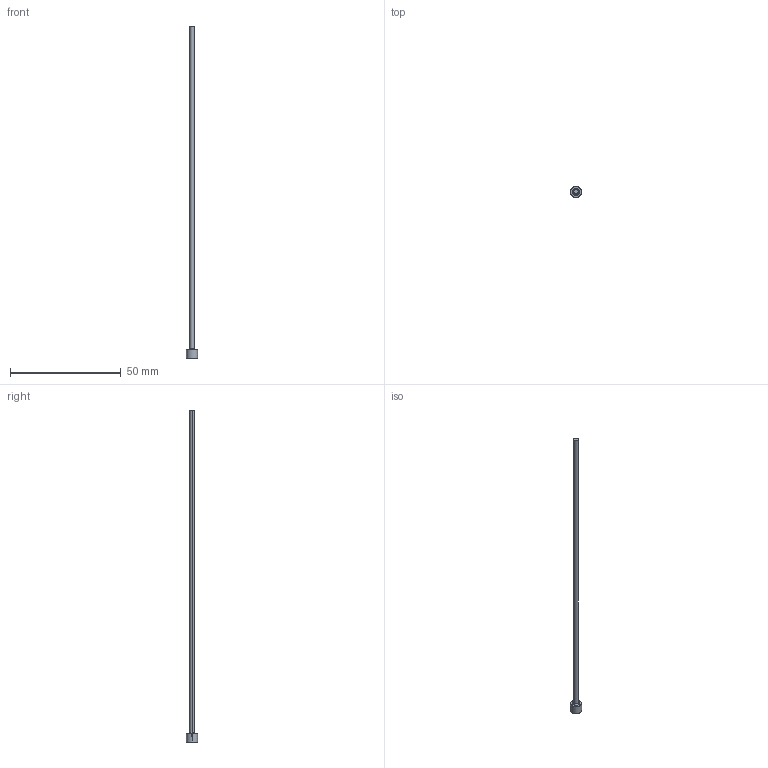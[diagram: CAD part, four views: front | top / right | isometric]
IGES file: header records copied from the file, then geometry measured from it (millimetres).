
Start section: SolidWorks IGES file using analytic representation for surfaces
Global section: file name: D:\Current\W1-2\EPH\EPH2.1-150.igs; native system: SolidWorks 2017; preprocessor: SolidWorks 2017; author: Ravi Kalvai; date: 240411.170752; units: millimetre
Bounding box: 5 x 5 x 150 mm (x, y, z)
Surface area: 1064 mm2 (no closed solid volume)
Topology: 0 solids, 0 shells, 9 faces, 152 edges, 152 vertices
Faces by surface type: bspline 5, revolution 4
